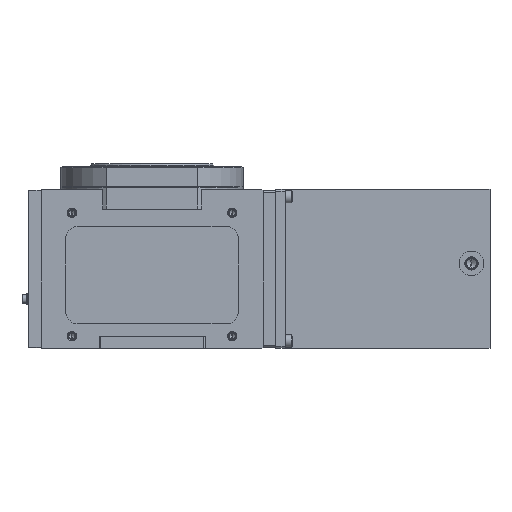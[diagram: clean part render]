
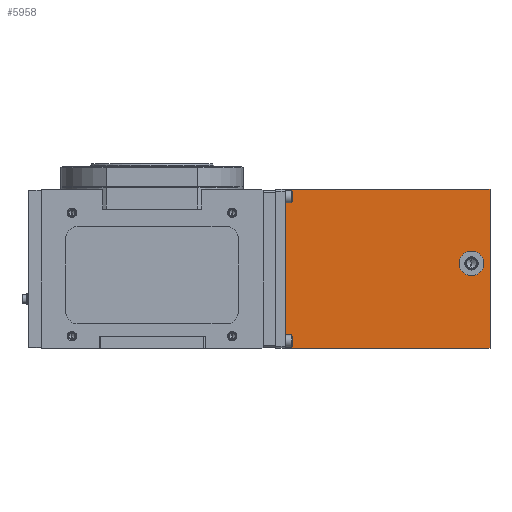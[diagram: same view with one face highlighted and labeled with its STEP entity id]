
A CAD part, front view. The second image highlights one B-rep face of the part: STEP entity #5958.
In plain terms, the highlighted planar face has unit normal (0, -1, 0).
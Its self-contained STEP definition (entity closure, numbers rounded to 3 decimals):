
#175 = CIRCLE ( 'NONE', #21861, 10. ) ;
#371 = EDGE_CURVE ( 'NONE', #10309, #10551, #14475, .T. ) ;
#606 = CARTESIAN_POINT ( 'NONE',  ( 174., 15., 0. ) ) ;
#1062 = DIRECTION ( 'NONE',  ( 0., -1., 0. ) ) ;
#1969 = CARTESIAN_POINT ( 'NONE',  ( 159., 15., -70. ) ) ;
#2051 = CARTESIAN_POINT ( 'NONE',  ( 8., 15., -129. ) ) ;
#2425 = CARTESIAN_POINT ( 'NONE',  ( 174., 15., 0. ) ) ;
#2928 = LINE ( 'NONE', #8814, #9214 ) ;
#3444 = VECTOR ( 'NONE', #14524, 1000. ) ;
#5772 = CARTESIAN_POINT ( 'NONE',  ( 174., 15., 0. ) ) ;
#5958 = ADVANCED_FACE ( 'NONE', ( #11800, #26007 ), #23778, .F. ) ;
#7539 = AXIS2_PLACEMENT_3D ( 'NONE', #24255, #8256, #26898 ) ;
#7916 = EDGE_CURVE ( 'NONE', #15359, #8171, #18099, .T. ) ;
#8005 = EDGE_CURVE ( 'NONE', #29364, #24095, #24740, .T. ) ;
#8171 = VERTEX_POINT ( 'NONE', #1969 ) ;
#8256 = DIRECTION ( 'NONE',  ( 0., -1., 0. ) ) ;
#8814 = CARTESIAN_POINT ( 'NONE',  ( 174., 15., 0. ) ) ;
#9214 = VECTOR ( 'NONE', #14020, 1000. ) ;
#10309 = VERTEX_POINT ( 'NONE', #5772 ) ;
#10493 = DIRECTION ( 'NONE',  ( 0., 0., 1. ) ) ;
#10551 = VERTEX_POINT ( 'NONE', #14722 ) ;
#11492 = ORIENTED_EDGE ( 'NONE', *, *, #371, .T. ) ;
#11800 = FACE_BOUND ( 'NONE', #25906, .T. ) ;
#11933 = ORIENTED_EDGE ( 'NONE', *, *, #15105, .F. ) ;
#14020 = DIRECTION ( 'NONE',  ( 0., 0., -1. ) ) ;
#14475 = LINE ( 'NONE', #606, #21588 ) ;
#14524 = DIRECTION ( 'NONE',  ( -1., 0., 0. ) ) ;
#14722 = CARTESIAN_POINT ( 'NONE',  ( 8., 15., 0. ) ) ;
#15105 = EDGE_CURVE ( 'NONE', #10309, #29364, #2928, .T. ) ;
#15359 = VERTEX_POINT ( 'NONE', #17889 ) ;
#16209 = EDGE_CURVE ( 'NONE', #10551, #24095, #26177, .T. ) ;
#16562 = DIRECTION ( 'NONE',  ( -1., 0., 0. ) ) ;
#16622 = CARTESIAN_POINT ( 'NONE',  ( 8., 15., 0. ) ) ;
#17025 = CARTESIAN_POINT ( 'NONE',  ( 159., 15., -60. ) ) ;
#17889 = CARTESIAN_POINT ( 'NONE',  ( 159., 15., -50. ) ) ;
#18099 = CIRCLE ( 'NONE', #7539, 10. ) ;
#19707 = AXIS2_PLACEMENT_3D ( 'NONE', #2425, #26422, #10493 ) ;
#19711 = DIRECTION ( 'NONE',  ( 0., 0., 1. ) ) ;
#21588 = VECTOR ( 'NONE', #16562, 1000. ) ;
#21861 = AXIS2_PLACEMENT_3D ( 'NONE', #17025, #1062, #19711 ) ;
#21999 = DIRECTION ( 'NONE',  ( 0., 0., -1. ) ) ;
#22739 = ORIENTED_EDGE ( 'NONE', *, *, #27350, .F. ) ;
#23778 = PLANE ( 'NONE',  #19707 ) ;
#24095 = VERTEX_POINT ( 'NONE', #2051 ) ;
#24255 = CARTESIAN_POINT ( 'NONE',  ( 159., 15., -60. ) ) ;
#24582 = CARTESIAN_POINT ( 'NONE',  ( 174., 15., -129. ) ) ;
#24740 = LINE ( 'NONE', #24582, #3444 ) ;
#25006 = ORIENTED_EDGE ( 'NONE', *, *, #16209, .T. ) ;
#25906 = EDGE_LOOP ( 'NONE', ( #30109, #22739 ) ) ;
#26007 = FACE_OUTER_BOUND ( 'NONE', #32369, .T. ) ;
#26177 = LINE ( 'NONE', #16622, #30743 ) ;
#26422 = DIRECTION ( 'NONE',  ( 0., 1., 0. ) ) ;
#26898 = DIRECTION ( 'NONE',  ( 0., 0., 1. ) ) ;
#27350 = EDGE_CURVE ( 'NONE', #8171, #15359, #175, .T. ) ;
#29364 = VERTEX_POINT ( 'NONE', #31912 ) ;
#30109 = ORIENTED_EDGE ( 'NONE', *, *, #7916, .F. ) ;
#30743 = VECTOR ( 'NONE', #21999, 1000. ) ;
#31912 = CARTESIAN_POINT ( 'NONE',  ( 174., 15., -129. ) ) ;
#32369 = EDGE_LOOP ( 'NONE', ( #25006, #33144, #11933, #11492 ) ) ;
#33144 = ORIENTED_EDGE ( 'NONE', *, *, #8005, .F. ) ;
